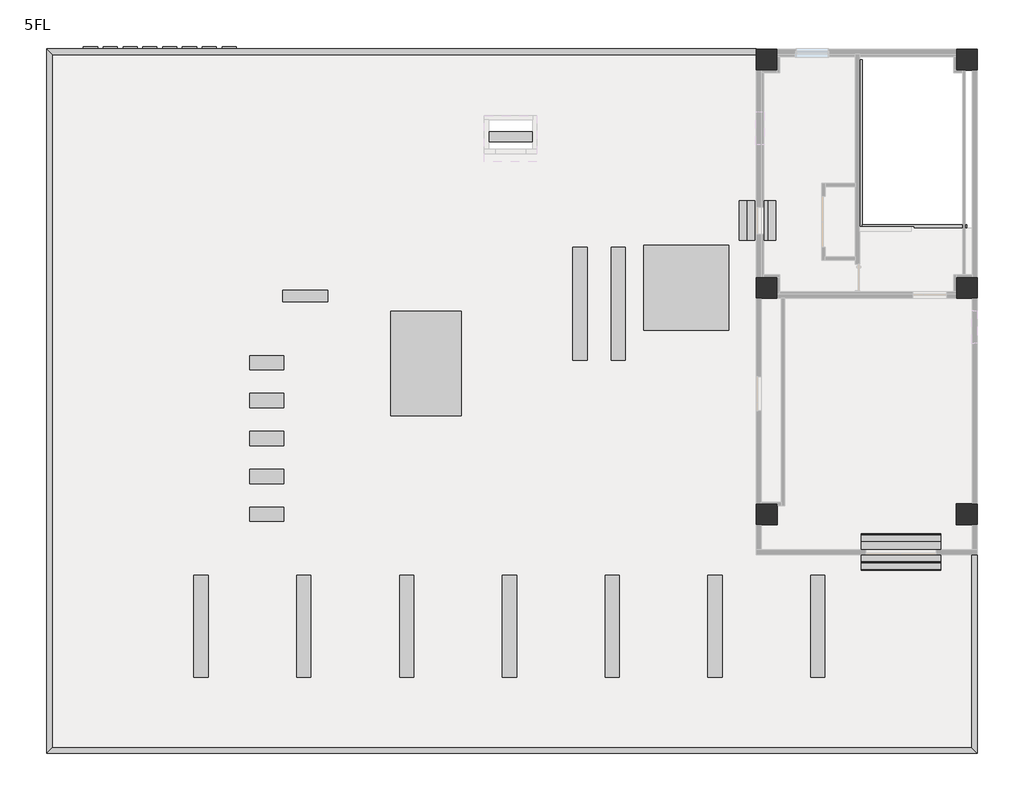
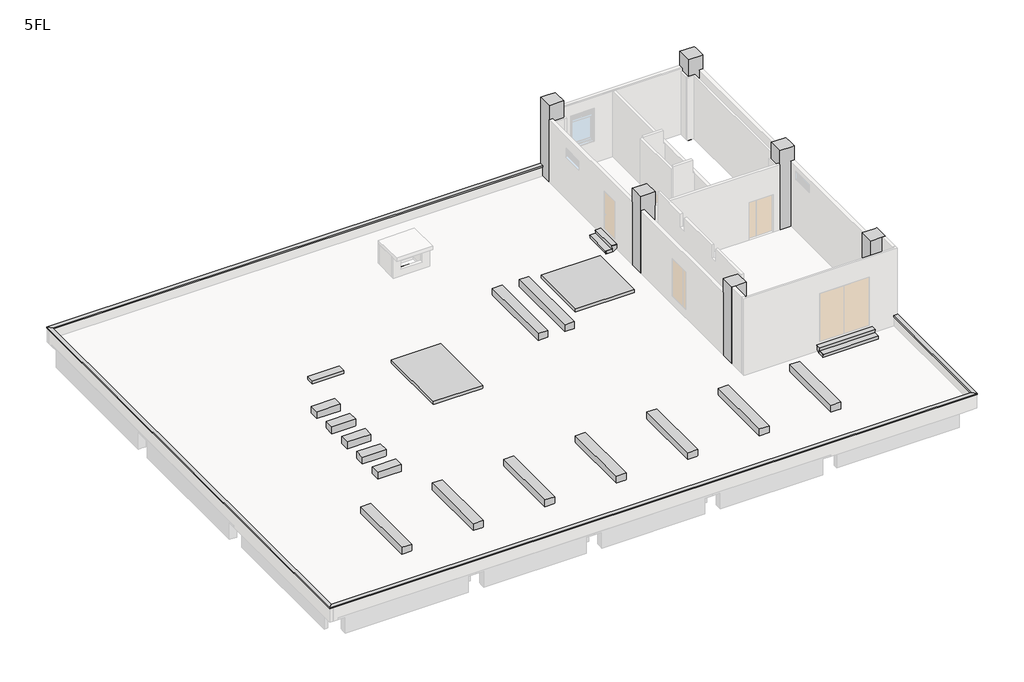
# One storey, part 3 of 3: 31 beams, 19 proxies, 6 columns, 4 stair flights.
"""IFC4 building model written with IfcOpenShell, lengths in millimetres."""

from ifc_helpers import new_model, si_unit, frame, origin, place, context, project, spatial, polyline, outline, extrude, faceted_brep, transform, mapped, element, save
from components import specialty_equipment_32afc5d8, generic_models_6a631b4b, generic_models_7c8da837, generic_models_0d24a473, generic_models_01440799, generic_models_cfce5d03, generic_models_70fadd8d

model = new_model("IFC4")

# Units and contexts
model_context = context("Model", 3, world=origin())
ifc_project = project(units=[si_unit("LENGTHUNIT", "METRE", prefix="MILLI")], contexts=[model_context])

# Site, building, storey
site = spatial("IfcSite", under=ifc_project)
building = spatial("IfcBuilding", under=site)
storey = spatial("IfcBuildingStorey", under=building, Name="5FL", Elevation=16400.0)

# Beams
placement = place(None, origin())
element("IfcBeam", 1, ObjectType="営_RC梁 : 2-RG2 350*850", at=placement, inside=storey, context=model_context, shape_type="SweptSolid", body=[
    extrude(outline(polyline([(13395.0, 7825.0), (13395.0, 8175.0), (18605.0, 8175.0), (18605.0, 7825.0), (13395.0, 7825.0)])), frame((0.0, 0.0, 15450.0), z_axis=(0.0, 0.0, 1.0), x_axis=(1.0, 0.0, 0.0)), (0.0, 0.0, 1.0), 790.0),
])
element("IfcBeam", 2, ObjectType="営_RC梁 : 2-RG2 350*850", at=placement, inside=storey, context=model_context, shape_type="Brep", body=[
    faceted_brep([(370.0, 15825.0, 15450.0), (6605.0, 15825.0, 15450.0), (6605.0, 15825.0, 16240.0), (370.0, 15825.0, 16240.0), (6605.0, 16175.0, 15450.0), (370.0, 16175.0, 15450.0), (370.0, 16175.0, 16240.0), (3825.0, 16175.0, 16240.0), (4175.0, 16175.0, 16240.0), (6605.0, 16175.0, 16240.0)], [[[0, 1, 2, 3]], [[4, 1, 0, 5]], [[4, 5, 6, 7, 8, 9]], [[1, 4, 9, 2]], [[5, 0, 3, 6]], [[3, 2, 9, 8, 7, 6]]]),
])
element("IfcBeam", 3, ObjectType="営_RC梁 : 2-RG2 350*850", at=placement, inside=storey, context=model_context, shape_type="Brep", body=[
    faceted_brep([(7395.0, 15825.0, 15450.0), (11140.0, 15825.0, 15450.0), (11260.0, 15825.0, 15450.0), (12605.0, 15825.0, 15450.0), (12605.0, 15825.0, 16240.0), (7395.0, 15825.0, 16240.0), (7395.0, 16175.0, 15450.0), (11140.0, 16175.0, 15450.0), (11260.0, 16175.0, 15450.0), (12605.0, 16175.0, 15450.0), (7395.0, 16175.0, 16240.0), (12605.0, 16175.0, 16240.0)], [[[0, 1, 2, 3, 4, 5]], [[0, 6, 7, 8, 9, 3, 2, 1]], [[9, 8, 7, 6, 10, 11]], [[6, 0, 5, 10]], [[3, 9, 11, 4]], [[5, 4, 11, 10]]]),
])
element("IfcBeam", 4, ObjectType="営_RC梁 : 2-RG2 350*850", at=placement, inside=storey, context=model_context, shape_type="Brep", body=[
    faceted_brep([(13395.0, 15825.0, 15450.0), (15040.0, 15825.0, 15450.0), (15160.0, 15825.0, 15450.0), (17440.0, 15825.0, 15450.0), (17560.0, 15825.0, 15450.0), (18605.0, 15825.0, 15450.0), (18605.0, 15825.0, 16240.0), (13395.0, 15825.0, 16240.0), (13395.0, 16175.0, 15450.0), (15040.0, 16175.0, 15450.0), (15160.0, 16175.0, 15450.0), (17440.0, 16175.0, 15450.0), (17560.0, 16175.0, 15450.0), (18605.0, 16175.0, 15450.0), (13395.0, 16175.0, 16240.0), (18605.0, 16175.0, 16240.0)], [[[0, 1, 2, 3, 4, 5, 6, 7]], [[0, 8, 9, 10, 11, 12, 13, 5, 4, 3, 2, 1]], [[13, 12, 11, 10, 9, 8, 14, 15]], [[8, 0, 7, 14]], [[5, 13, 15, 6]], [[7, 6, 15, 14]]]),
])
element("IfcBeam", 5, ObjectType="営_RC梁 : 2-RG1 350*850", at=placement, inside=storey, context=model_context, shape_type="Brep", body=[
    faceted_brep([(370.0, 24050.0, 15450.0), (3925.0, 24050.0, 15450.0), (4075.0, 24050.0, 15450.0), (6605.0, 24050.0, 15450.0), (6605.0, 24050.0, 16240.0), (4175.0, 24050.0, 16240.0), (3825.0, 24050.0, 16240.0), (370.0, 24050.0, 16240.0), (6605.0, 24420.0, 15450.0), (6605.0, 24250.0, 15450.0), (370.0, 24250.0, 15450.0), (370.0, 24420.0, 15450.0), (0.0, 24420.0, 16390.0), (7000.0, 24420.0, 16390.0), (7000.0, 24420.0, 16300.0), (6605.0, 24420.0, 16300.0), (370.0, 24420.0, 16300.0), (0.0, 24420.0, 16300.0), (0.0, 24290.0, 16390.0), (7000.0, 24290.0, 16390.0), (6605.0, 24290.0, 16300.0), (6605.0, 24290.0, 16240.0), (370.0, 24290.0, 16240.0), (370.0, 24290.0, 16300.0), (7000.0, 24290.0, 16300.0), (0.0, 24290.0, 16300.0)], [[[0, 1, 2, 3, 4, 5, 6, 7]], [[8, 9, 3, 2, 1, 0, 10, 11]], [[12, 13, 14, 15, 8, 11, 16, 17]], [[13, 12, 18, 19]], [[3, 9, 8, 15, 20, 21, 4]], [[11, 10, 0, 7, 22, 23, 16]], [[14, 13, 19, 24]], [[12, 17, 25, 18]], [[15, 14, 24, 20]], [[17, 16, 23, 25]], [[21, 22, 7, 6, 5, 4]], [[22, 21, 20, 24, 19, 18, 25, 23]]]),
])
element("IfcBeam", 6, ObjectType="営_RC梁 : 2-RG1 350*850", at=placement, inside=storey, context=model_context, shape_type="Brep", body=[
    faceted_brep([(7395.0, 24050.0, 15450.0), (11140.0, 24050.0, 15450.0), (11260.0, 24050.0, 15450.0), (12605.0, 24050.0, 15450.0), (12605.0, 24050.0, 16240.0), (7395.0, 24050.0, 16240.0), (7395.0, 24250.0, 15450.0), (7395.0, 24420.0, 15450.0), (12605.0, 24420.0, 15450.0), (12605.0, 24250.0, 15450.0), (7000.0, 24420.0, 16390.0), (13000.0, 24420.0, 16390.0), (13000.0, 24420.0, 16300.0), (12605.0, 24420.0, 16300.0), (7395.0, 24420.0, 16300.0), (7000.0, 24420.0, 16300.0), (7000.0, 24290.0, 16390.0), (13000.0, 24290.0, 16390.0), (7395.0, 24290.0, 16240.0), (7395.0, 24290.0, 16300.0), (12605.0, 24290.0, 16300.0), (12605.0, 24290.0, 16240.0), (7000.0, 24290.0, 16300.0), (13000.0, 24290.0, 16300.0)], [[[0, 1, 2, 3, 4, 5]], [[0, 6, 7, 8, 9, 3, 2, 1]], [[10, 11, 12, 13, 8, 7, 14, 15]], [[11, 10, 16, 17]], [[7, 6, 0, 5, 18, 19, 14]], [[3, 9, 8, 13, 20, 21, 4]], [[10, 15, 22, 16]], [[12, 11, 17, 23]], [[15, 14, 19, 22]], [[13, 12, 23, 20]], [[21, 18, 5, 4]], [[18, 21, 20, 23, 17, 16, 22, 19]]]),
])
element("IfcBeam", 7, ObjectType="営_RC梁 : 2-RG1 350*850", at=placement, inside=storey, context=model_context, shape_type="Brep", body=[
    faceted_brep([(13395.0, 24050.0, 15450.0), (15040.0, 24050.0, 15450.0), (15160.0, 24050.0, 15450.0), (18605.0, 24050.0, 15450.0), (18605.0, 24050.0, 16240.0), (13395.0, 24050.0, 16240.0), (13395.0, 24250.0, 15450.0), (13395.0, 24420.0, 15450.0), (18605.0, 24420.0, 15450.0), (18605.0, 24250.0, 15450.0), (13000.0, 24420.0, 16390.0), (19000.0, 24420.0, 16390.0), (19000.0, 24420.0, 16300.0), (18605.0, 24420.0, 16300.0), (13395.0, 24420.0, 16300.0), (13000.0, 24420.0, 16300.0), (13000.0, 24290.0, 16390.0), (19000.0, 24290.0, 16390.0), (13395.0, 24290.0, 16240.0), (13395.0, 24290.0, 16300.0), (18605.0, 24290.0, 16300.0), (18605.0, 24290.0, 16240.0), (13000.0, 24290.0, 16300.0), (19000.0, 24290.0, 16300.0)], [[[0, 1, 2, 3, 4, 5]], [[0, 6, 7, 8, 9, 3, 2, 1]], [[10, 11, 12, 13, 8, 7, 14, 15]], [[11, 10, 16, 17]], [[7, 6, 0, 5, 18, 19, 14]], [[3, 9, 8, 13, 20, 21, 4]], [[10, 15, 22, 16]], [[12, 11, 17, 23]], [[15, 14, 19, 22]], [[13, 12, 23, 20]], [[21, 18, 5, 4]], [[18, 21, 20, 23, 17, 16, 22, 19]]]),
])
element("IfcBeam", 8, ObjectType="営_RC梁 : RG12 350*900", at=placement, inside=storey, context=model_context, shape_type="Brep", body=[
    faceted_brep([(7175.0, 16395.0, 15400.0), (7175.0, 23630.0, 15400.0), (7175.0, 23630.0, 16240.0), (7175.0, 21515.0, 16240.0), (7175.0, 21165.0, 16240.0), (7175.0, 18845.0, 16240.0), (7175.0, 18495.0, 16240.0), (7175.0, 16395.0, 16240.0), (7060.0, 16395.0, 15400.0), (6940.0, 16395.0, 15400.0), (6825.0, 16395.0, 15400.0), (6825.0, 20925.0, 15400.0), (6825.0, 21075.0, 15400.0), (6825.0, 23630.0, 15400.0), (6925.0, 23630.0, 15400.0), (7075.0, 23630.0, 15400.0), (6825.0, 16395.0, 16240.0), (6825.0, 20825.0, 16240.0), (6825.0, 21075.0, 16240.0), (6825.0, 23630.0, 16240.0)], [[[0, 1, 2, 3, 4, 5, 6, 7]], [[0, 8, 9, 10, 11, 12, 13, 14, 15, 1]], [[13, 12, 11, 10, 16, 17, 18, 19]], [[10, 9, 8, 0, 7, 16]], [[1, 15, 14, 13, 19, 2]], [[7, 6, 5, 4, 3, 2, 19, 18, 17, 16]]]),
])
element("IfcBeam", 9, ObjectType="営_RC梁 : RG12 350*900", at=placement, inside=storey, context=model_context, shape_type="Brep", body=[
    faceted_brep([(13175.0, 16395.0, 15400.0), (13175.0, 17400.0, 15400.0), (13175.0, 17520.0, 15400.0), (13175.0, 18430.0, 15400.0), (13175.0, 18550.0, 15400.0), (13175.0, 20450.0, 15400.0), (13175.0, 20570.0, 15400.0), (13175.0, 23630.0, 15400.0), (13175.0, 23630.0, 16240.0), (13175.0, 21515.0, 16240.0), (13175.0, 21165.0, 16240.0), (13175.0, 18845.0, 16240.0), (13175.0, 18495.0, 16240.0), (13175.0, 16395.0, 16240.0), (12825.0, 16395.0, 15400.0), (12825.0, 17400.0, 15400.0), (12825.0, 17520.0, 15400.0), (12825.0, 18430.0, 15400.0), (12825.0, 18550.0, 15400.0), (12825.0, 23630.0, 15400.0), (12825.0, 16395.0, 16240.0), (12825.0, 18495.0, 16240.0), (12825.0, 18845.0, 16240.0), (12825.0, 21165.0, 16240.0), (12825.0, 21515.0, 16240.0), (12825.0, 23630.0, 16240.0)], [[[0, 1, 2, 3, 4, 5, 6, 7, 8, 9, 10, 11, 12, 13]], [[0, 14, 15, 16, 17, 18, 19, 7, 6, 5, 4, 3, 2, 1]], [[19, 18, 17, 16, 15, 14, 20, 21, 22, 23, 24, 25]], [[14, 0, 13, 20]], [[7, 19, 25, 8]], [[13, 12, 11, 10, 9, 8, 25, 24, 23, 22, 21, 20]]]),
])
element("IfcBeam", 10, ObjectType="営_RC梁 : RG12 350*900", at=placement, inside=storey, context=model_context, shape_type="Brep", body=[
    faceted_brep([(19175.0, 8395.0, 15400.0), (19175.0, 13440.0, 15400.0), (19175.0, 13560.0, 15400.0), (19175.0, 15605.0, 15400.0), (19175.0, 15605.0, 16240.0), (19175.0, 13675.0, 16240.0), (19175.0, 13325.0, 16240.0), (19175.0, 10925.0, 16240.0), (19175.0, 10575.0, 16240.0), (19175.0, 8395.0, 16240.0), (18825.0, 8395.0, 15400.0), (18825.0, 13440.0, 15400.0), (18825.0, 13560.0, 15400.0), (18825.0, 15605.0, 15400.0), (18825.0, 8395.0, 16240.0), (18825.0, 10575.0, 16240.0), (18825.0, 10925.0, 16240.0), (18825.0, 13325.0, 16240.0), (18825.0, 13675.0, 16240.0), (18825.0, 15605.0, 16240.0)], [[[0, 1, 2, 3, 4, 5, 6, 7, 8, 9]], [[0, 10, 11, 12, 13, 3, 2, 1]], [[13, 12, 11, 10, 14, 15, 16, 17, 18, 19]], [[10, 0, 9, 14]], [[3, 13, 19, 4]], [[9, 8, 7, 6, 5, 4, 19, 18, 17, 16, 15, 14]]]),
])
element("IfcBeam", 11, ObjectType="営_RC梁 : RG12 350*900", at=placement, inside=storey, context=model_context, shape_type="Brep", body=[
    faceted_brep([(19175.0, 16395.0, 15400.0), (19175.0, 19940.0, 15400.0), (19175.0, 20060.0, 15400.0), (19175.0, 23630.0, 15400.0), (19175.0, 23630.0, 16240.0), (19175.0, 21515.0, 16240.0), (19175.0, 21165.0, 16240.0), (19175.0, 18845.0, 16240.0), (19175.0, 18495.0, 16240.0), (19175.0, 16395.0, 16240.0), (19060.0, 16395.0, 15400.0), (18940.0, 16395.0, 15400.0), (18825.0, 16395.0, 15400.0), (18825.0, 19430.0, 15400.0), (18825.0, 19550.0, 15400.0), (18825.0, 23630.0, 15400.0), (18940.0, 23630.0, 15400.0), (19060.0, 23630.0, 15400.0), (18825.0, 16395.0, 16240.0), (18825.0, 18495.0, 16240.0), (18825.0, 18845.0, 16240.0), (18825.0, 21165.0, 16240.0), (18825.0, 21515.0, 16240.0), (18825.0, 23630.0, 16240.0)], [[[0, 1, 2, 3, 4, 5, 6, 7, 8, 9]], [[0, 10, 11, 12, 13, 14, 15, 16, 17, 3, 2, 1]], [[15, 14, 13, 12, 18, 19, 20, 21, 22, 23]], [[12, 11, 10, 0, 9, 18]], [[3, 17, 16, 15, 23, 4]], [[9, 8, 7, 6, 5, 4, 23, 22, 21, 20, 19, 18]]]),
])
element("IfcBeam", 12, ObjectType="営_RC梁 : B1 350*750", at=placement, inside=storey, context=model_context, shape_type="SweptSolid", body=[
    extrude(outline(polyline([(25175.0, 2485.0), (25175.0, 2835.0), (32050.0, 2835.0), (32050.0, 2485.0), (25175.0, 2485.0)])), frame((0.0, 0.0, 15550.0), z_axis=(0.0, 0.0, 1.0), x_axis=(1.0, 0.0, 0.0)), (0.0, 0.0, 1.0), 690.0),
])
element("IfcBeam", 13, ObjectType="営_RC梁 : B1 350*750", at=placement, inside=storey, context=model_context, shape_type="SweptSolid", body=[
    extrude(outline(polyline([(25175.0, 5155.0), (25175.0, 5505.0), (32050.0, 5505.0), (32050.0, 5155.0), (25175.0, 5155.0)])), frame((0.0, 0.0, 15550.0), z_axis=(0.0, 0.0, 1.0), x_axis=(1.0, 0.0, 0.0)), (0.0, 0.0, 1.0), 690.0),
])
element("IfcBeam", 14, ObjectType="営_RC梁 : B1 350*750", at=placement, inside=storey, context=model_context, shape_type="SweptSolid", body=[
    extrude(outline(polyline([(25175.0, 10575.0), (25175.0, 10925.0), (32050.0, 10925.0), (32050.0, 10575.0), (25175.0, 10575.0)])), frame((0.0, 0.0, 15550.0), z_axis=(0.0, 0.0, 1.0), x_axis=(1.0, 0.0, 0.0)), (0.0, 0.0, 1.0), 690.0),
])
element("IfcBeam", 15, ObjectType="営_RC梁 : B1 350*750", at=placement, inside=storey, context=model_context, shape_type="Brep", body=[
    faceted_brep([(25175.0, 13325.0, 15550.0), (32050.0, 13325.0, 15550.0), (32050.0, 13325.0, 16240.0), (25175.0, 13325.0, 16240.0), (25175.0, 13405.0, 15550.0), (25175.0, 13555.0, 15550.0), (25175.0, 13675.0, 15550.0), (32050.0, 13675.0, 15550.0), (32050.0, 13555.0, 15550.0), (32050.0, 13405.0, 15550.0), (25175.0, 13675.0, 16240.0), (32050.0, 13675.0, 16240.0)], [[[0, 1, 2, 3]], [[0, 4, 5, 6, 7, 8, 9, 1]], [[7, 6, 10, 11]], [[6, 5, 4, 0, 3, 10]], [[1, 9, 8, 7, 11, 2]], [[3, 2, 11, 10]]]),
])
element("IfcBeam", 16, ObjectType="営_RC梁 : B4 350*750", at=placement, inside=storey, context=model_context, shape_type="Brep", body=[
    faceted_brep([(28374.0, 16175.0, 15550.0), (28374.0, 24050.0, 15550.0), (28374.0, 24050.0, 16390.0), (28374.0, 18225.0, 16390.0), (28374.0, 18150.0, 16390.0), (28374.0, 18150.0, 16240.0), (28374.0, 17975.0, 16240.0), (28374.0, 16175.0, 16240.0), (28175.0, 16175.0, 15550.0), (28025.0, 16175.0, 15550.0), (28024.0, 16175.0, 15550.0), (28024.0, 19575.0, 15550.0), (28024.0, 19695.0, 15550.0), (28024.0, 24050.0, 15550.0), (28024.0, 16175.0, 16240.0), (28024.0, 24050.0, 16240.0), (28275.0, 24050.0, 16390.0), (28275.0, 18150.0, 16390.0), (28275.0, 24050.0, 16240.0), (28275.0, 18150.0, 16240.0)], [[[0, 1, 2, 3, 4, 5, 6, 7]], [[0, 8, 9, 10, 11, 12, 13, 1]], [[13, 12, 11, 10, 14, 15]], [[4, 3, 2, 16, 17]], [[10, 9, 8, 0, 7, 14]], [[2, 1, 13, 15, 18, 16]], [[5, 19, 18, 15, 14, 7, 6]], [[19, 17, 16, 18]], [[17, 19, 5, 4]]]),
])
element("IfcBeam", 17, ObjectType="営_RC梁 : B3 250*600", at=placement, inside=storey, context=model_context, shape_type="Brep", body=[
    faceted_brep([(28374.0, 17975.0, 15700.0), (32050.0, 17975.0, 15700.0), (32050.0, 17975.0, 16240.0), (28374.0, 17975.0, 16240.0), (28374.0, 18225.0, 15700.0), (30105.0, 18225.0, 15700.0), (30255.0, 18225.0, 15700.0), (32050.0, 18225.0, 15700.0), (28374.0, 18225.0, 16390.0), (30105.0, 18225.0, 16390.0), (30255.0, 18225.0, 16390.0), (32050.0, 18225.0, 16390.0), (28374.0, 18150.0, 16390.0), (30180.0, 18150.0, 16390.0), (30180.0, 18100.0, 16390.0), (32050.0, 18100.0, 16390.0), (28374.0, 18150.0, 16240.0), (32050.0, 18100.0, 16240.0), (30180.0, 18100.0, 16240.0), (30180.0, 18150.0, 16240.0)], [[[0, 1, 2, 3]], [[0, 4, 5, 6, 7, 1]], [[4, 8, 9, 10, 11, 7, 6, 5]], [[11, 10, 9, 8, 12, 13, 14, 15]], [[8, 4, 0, 3, 16, 12]], [[1, 7, 11, 15, 17, 2]], [[18, 19, 16, 3, 2, 17]], [[19, 13, 12, 16]], [[19, 18, 14, 13]], [[14, 18, 17, 15]]]),
])
element("IfcBeam", 18, ObjectType="営_RC梁 : B1 350*750", at=placement, inside=storey, context=model_context, shape_type="SweptSolid", body=[
    extrude(outline(polyline([(19175.0, 5155.0), (19175.0, 5505.0), (24825.0, 5505.0), (24825.0, 5155.0), (19175.0, 5155.0)])), frame((0.0, 0.0, 15550.0), z_axis=(0.0, 0.0, 1.0), x_axis=(1.0, 0.0, 0.0)), (0.0, 0.0, 1.0), 690.0),
])
element("IfcBeam", 19, ObjectType="営_RC梁 : B1 350*750", at=placement, inside=storey, context=model_context, shape_type="SweptSolid", body=[
    extrude(outline(polyline([(19175.0, 10575.0), (19175.0, 10925.0), (24825.0, 10925.0), (24825.0, 10575.0), (19175.0, 10575.0)])), frame((0.0, 0.0, 15550.0), z_axis=(0.0, 0.0, 1.0), x_axis=(1.0, 0.0, 0.0)), (0.0, 0.0, 1.0), 690.0),
])
element("IfcBeam", 20, ObjectType="営_RC梁 : B1 350*750", at=placement, inside=storey, context=model_context, shape_type="SweptSolid", body=[
    extrude(outline(polyline([(19175.0, 13325.0), (19175.0, 13675.0), (24825.0, 13675.0), (24825.0, 13325.0), (19175.0, 13325.0)])), frame((0.0, 0.0, 15550.0), z_axis=(0.0, 0.0, 1.0), x_axis=(1.0, 0.0, 0.0)), (0.0, 0.0, 1.0), 690.0),
])
element("IfcBeam", 21, ObjectType="営_RC梁 : B1 350*750", at=placement, inside=storey, context=model_context, shape_type="SweptSolid", body=[
    extrude(outline(polyline([(18825.0, 10925.0), (18825.0, 10575.0), (13175.0, 10575.0), (13175.0, 10925.0), (18825.0, 10925.0)])), frame((0.0, 0.0, 15550.0), z_axis=(0.0, 0.0, 1.0), x_axis=(1.0, 0.0, 0.0)), (0.0, 0.0, 1.0), 690.0),
])
element("IfcBeam", 22, ObjectType="営_RC梁 : B1 350*750", at=placement, inside=storey, context=model_context, shape_type="Brep", body=[
    faceted_brep([(13175.0, 13325.0, 15550.0), (15400.0, 13325.0, 15550.0), (15520.0, 13325.0, 15550.0), (16480.0, 13325.0, 15550.0), (16600.0, 13325.0, 15550.0), (18825.0, 13325.0, 15550.0), (18825.0, 13325.0, 16240.0), (13175.0, 13325.0, 16240.0), (18825.0, 13675.0, 15550.0), (13175.0, 13675.0, 15550.0), (13175.0, 13675.0, 16240.0), (18825.0, 13675.0, 16240.0)], [[[0, 1, 2, 3, 4, 5, 6, 7]], [[8, 5, 4, 3, 2, 1, 0, 9]], [[8, 9, 10, 11]], [[5, 8, 11, 6]], [[9, 0, 7, 10]], [[7, 6, 11, 10]]]),
])
element("IfcBeam", 23, ObjectType="営_RC梁 : B1 350*750", at=placement, inside=storey, context=model_context, shape_type="Brep", body=[
    faceted_brep([(19175.0, 18495.0, 15550.0), (21940.0, 18495.0, 15550.0), (22060.0, 18495.0, 15550.0), (24825.0, 18495.0, 15550.0), (24825.0, 18495.0, 16240.0), (19175.0, 18495.0, 16240.0), (19175.0, 18845.0, 15550.0), (21940.0, 18845.0, 15550.0), (22060.0, 18845.0, 15550.0), (24825.0, 18845.0, 15550.0), (19175.0, 18845.0, 16240.0), (24825.0, 18845.0, 16240.0)], [[[0, 1, 2, 3, 4, 5]], [[0, 6, 7, 8, 9, 3, 2, 1]], [[9, 8, 7, 6, 10, 11]], [[6, 0, 5, 10]], [[3, 9, 11, 4]], [[5, 4, 11, 10]]]),
])
element("IfcBeam", 24, ObjectType="営_RC梁 : B1 350*750", at=placement, inside=storey, context=model_context, shape_type="Brep", body=[
    faceted_brep([(19175.0, 21165.0, 15550.0), (21940.0, 21165.0, 15550.0), (22060.0, 21165.0, 15550.0), (24825.0, 21165.0, 15550.0), (24825.0, 21165.0, 16240.0), (19175.0, 21165.0, 16240.0), (19175.0, 21515.0, 15550.0), (21940.0, 21515.0, 15550.0), (22060.0, 21515.0, 15550.0), (24825.0, 21515.0, 15550.0), (19175.0, 21515.0, 16240.0), (24825.0, 21515.0, 16240.0)], [[[0, 1, 2, 3, 4, 5]], [[0, 6, 7, 8, 9, 3, 2, 1]], [[9, 8, 7, 6, 10, 11]], [[6, 0, 5, 10]], [[3, 9, 11, 4]], [[5, 4, 11, 10]]]),
])
element("IfcBeam", 25, ObjectType="営_RC梁 : B1 350*750", at=placement, inside=storey, context=model_context, shape_type="Brep", body=[
    faceted_brep([(13175.0, 18495.0, 15550.0), (17560.0, 18495.0, 15550.0), (18825.0, 18495.0, 15550.0), (18825.0, 18495.0, 16240.0), (13175.0, 18495.0, 16240.0), (13175.0, 18495.0, 16150.0), (13175.0, 18550.0, 15550.0), (13175.0, 18845.0, 15550.0), (15040.0, 18845.0, 15550.0), (15160.0, 18845.0, 15550.0), (17440.0, 18845.0, 15550.0), (17560.0, 18845.0, 15550.0), (18825.0, 18845.0, 15550.0), (13175.0, 18845.0, 16240.0), (18825.0, 18845.0, 16240.0)], [[[0, 1, 2, 3, 4, 5]], [[0, 6, 7, 8, 9, 10, 11, 12, 2, 1]], [[12, 11, 10, 9, 8, 7, 13, 14]], [[7, 6, 0, 5, 4, 13]], [[2, 12, 14, 3]], [[4, 3, 14, 13]]]),
])
element("IfcBeam", 26, ObjectType="営_RC梁 : B1 350*750", at=placement, inside=storey, context=model_context, shape_type="Brep", body=[
    faceted_brep([(13175.0, 21165.0, 15550.0), (15040.0, 21165.0, 15550.0), (15160.0, 21165.0, 15550.0), (16540.0, 21165.0, 15550.0), (16660.0, 21165.0, 15550.0), (18825.0, 21165.0, 15550.0), (18825.0, 21165.0, 16240.0), (16725.0, 21165.0, 16240.0), (16725.0, 21165.0, 16390.0), (15175.0, 21165.0, 16390.0), (15175.0, 21165.0, 16240.0), (13175.0, 21165.0, 16240.0), (13175.0, 21515.0, 15550.0), (15040.0, 21515.0, 15550.0), (15160.0, 21515.0, 15550.0), (16540.0, 21515.0, 15550.0), (16660.0, 21515.0, 15550.0), (18825.0, 21515.0, 15550.0), (13175.0, 21515.0, 16240.0), (15175.0, 21515.0, 16240.0), (15175.0, 21515.0, 16390.0), (16725.0, 21515.0, 16390.0), (16725.0, 21515.0, 16240.0), (18825.0, 21515.0, 16240.0)], [[[0, 1, 2, 3, 4, 5, 6, 7, 8, 9, 10, 11]], [[0, 12, 13, 14, 15, 16, 17, 5, 4, 3, 2, 1]], [[17, 16, 15, 14, 13, 12, 18, 19, 20, 21, 22, 23]], [[9, 8, 21, 20]], [[12, 0, 11, 18]], [[5, 17, 23, 6]], [[10, 19, 18, 11]], [[19, 10, 9, 20]], [[7, 22, 21, 8]], [[22, 7, 6, 23]]]),
])
element("IfcBeam", 27, ObjectType="営_RC梁 : B1 350*750", at=placement, inside=storey, context=model_context, shape_type="Brep", body=[
    faceted_brep([(7175.0, 18495.0, 15550.0), (11140.0, 18495.0, 15550.0), (11260.0, 18495.0, 15550.0), (12605.0, 18495.0, 15550.0), (12725.0, 18495.0, 15550.0), (12825.0, 18495.0, 15550.0), (12825.0, 18495.0, 16150.0), (12825.0, 18495.0, 16240.0), (7175.0, 18495.0, 16240.0), (7175.0, 18845.0, 15550.0), (11140.0, 18845.0, 15550.0), (11260.0, 18845.0, 15550.0), (12605.0, 18845.0, 15550.0), (12725.0, 18845.0, 15550.0), (12825.0, 18845.0, 15550.0), (12825.0, 18550.0, 15550.0), (7175.0, 18845.0, 16240.0), (12825.0, 18845.0, 16240.0)], [[[0, 1, 2, 3, 4, 5, 6, 7, 8]], [[0, 9, 10, 11, 12, 13, 14, 15, 5, 4, 3, 2, 1]], [[14, 13, 12, 11, 10, 9, 16, 17]], [[9, 0, 8, 16]], [[5, 15, 14, 17, 7, 6]], [[8, 7, 17, 16]]]),
])
element("IfcBeam", 28, ObjectType="営_RC梁 : B1 350*750", at=placement, inside=storey, context=model_context, shape_type="Brep", body=[
    faceted_brep([(7175.0, 21165.0, 15550.0), (11140.0, 21165.0, 15550.0), (11260.0, 21165.0, 15550.0), (12825.0, 21165.0, 15550.0), (12825.0, 21165.0, 16240.0), (7175.0, 21165.0, 16240.0), (7175.0, 21515.0, 15550.0), (11140.0, 21515.0, 15550.0), (11260.0, 21515.0, 15550.0), (12825.0, 21515.0, 15550.0), (7175.0, 21515.0, 16240.0), (12825.0, 21515.0, 16240.0)], [[[0, 1, 2, 3, 4, 5]], [[0, 6, 7, 8, 9, 3, 2, 1]], [[9, 8, 7, 6, 10, 11]], [[6, 0, 5, 10]], [[3, 9, 11, 4]], [[5, 4, 11, 10]]]),
])
element("IfcBeam", 29, ObjectType="営_RC梁 : B3 250*600", at=placement, inside=storey, context=model_context, shape_type="Brep", body=[
    faceted_brep([(4175.0, 20825.0, 15700.0), (6825.0, 20825.0, 15700.0), (6825.0, 20825.0, 16240.0), (4175.0, 20825.0, 16240.0), (6825.0, 21075.0, 15700.0), (6825.0, 20925.0, 15700.0), (4175.0, 20925.0, 15700.0), (4175.0, 21075.0, 15700.0), (4175.0, 21075.0, 16240.0), (6825.0, 21075.0, 16240.0)], [[[0, 1, 2, 3]], [[4, 5, 1, 0, 6, 7]], [[4, 7, 8, 9]], [[1, 5, 4, 9, 2]], [[7, 6, 0, 3, 8]], [[3, 2, 9, 8]]]),
])
element("IfcBeam", 30, ObjectType="営_RC梁 : B4 350*750", at=placement, inside=storey, context=model_context, shape_type="Brep", body=[
    faceted_brep([(4175.0, 16175.0, 15550.0), (4175.0, 20925.0, 15550.0), (4175.0, 21075.0, 15550.0), (4175.0, 24050.0, 15550.0), (4175.0, 24050.0, 16240.0), (4175.0, 21075.0, 16240.0), (4175.0, 20825.0, 16240.0), (4175.0, 16175.0, 16240.0), (3825.0, 16175.0, 15550.0), (3825.0, 24050.0, 15550.0), (3825.0, 16175.0, 16240.0), (3825.0, 17975.0, 16240.0), (3825.0, 18225.0, 16240.0), (3825.0, 24050.0, 16240.0)], [[[0, 1, 2, 3, 4, 5, 6, 7]], [[0, 8, 9, 3, 2, 1]], [[9, 8, 10, 11, 12, 13]], [[8, 0, 7, 10]], [[3, 9, 13, 4]], [[7, 6, 5, 4, 13, 12, 11, 10]]]),
])
element("IfcBeam", 31, ObjectType="営_RC梁 : B3 250*600", at=placement, inside=storey, context=model_context, shape_type="SweptSolid", body=[
    extrude(outline(polyline([(3825.0, 18225.0), (3825.0, 17975.0), (-50.0, 17975.0), (-50.0, 18225.0), (3825.0, 18225.0)])), frame((0.0, 0.0, 15700.0), z_axis=(0.0, 0.0, 1.0), x_axis=(1.0, 0.0, 0.0)), (0.0, 0.0, 1.0), 540.0),
])

# Proxies
element("IfcBuildingElementProxy", 32, Name="パラペット笠木", ObjectType="パラペット笠木", at=placement, inside=storey, context=model_context, shape_type="Brep", body=[
    faceted_brep([(32435.0, 6580.0, 17030.0), (32420.0, 6580.0, 17030.0), (32420.0, 6580.0, 17050.0), (32250.0, 6580.0, 17050.0), (32250.0, 6580.0, 17025.0), (32235.0, 6580.0, 17025.0), (32235.0, 6580.0, 17090.1428571), (32435.0, 6580.0, 17100.0), (32435.0, -435.0, 17030.0), (32435.0, -435.0, 17100.0), (32235.0, -235.0, 17090.1428571), (32235.0, -235.0, 17025.0), (32250.0, -250.0, 17025.0), (32250.0, -250.0, 17050.0), (32420.0, -420.0, 17050.0), (32420.0, -420.0, 17030.0)], [[[0, 1, 2, 3, 4, 5, 6, 7]], [[8, 9, 10, 11, 12, 13, 14, 15]], [[1, 0, 8, 15]], [[2, 1, 15, 14]], [[3, 2, 14, 13]], [[4, 3, 13, 12]], [[5, 4, 12, 11]], [[6, 5, 11, 10]], [[7, 6, 10, 9]], [[0, 7, 9, 8]]]),
    faceted_brep([(32435.0, -435.0, 17030.0), (32420.0, -420.0, 17030.0), (32420.0, -420.0, 17050.0), (32250.0, -250.0, 17050.0), (32250.0, -250.0, 17025.0), (32235.0, -235.0, 17025.0), (32235.0, -235.0, 17090.1428571), (32435.0, -435.0, 17100.0), (-435.0, -435.0, 17030.0), (-435.0, -435.0, 17100.0), (-235.0, -235.0, 17090.1428571), (-235.0, -235.0, 17025.0), (-250.0, -250.0, 17025.0), (-250.0, -250.0, 17050.0), (-420.0, -420.0, 17050.0), (-420.0, -420.0, 17030.0)], [[[0, 1, 2, 3, 4, 5, 6, 7]], [[8, 9, 10, 11, 12, 13, 14, 15]], [[1, 0, 8, 15]], [[2, 1, 15, 14]], [[3, 2, 14, 13]], [[4, 3, 13, 12]], [[5, 4, 12, 11]], [[6, 5, 11, 10]], [[7, 6, 10, 9]], [[0, 7, 9, 8]]]),
    faceted_brep([(-435.0, -435.0, 17030.0), (-420.0, -420.0, 17030.0), (-420.0, -420.0, 17050.0), (-250.0, -250.0, 17050.0), (-250.0, -250.0, 17025.0), (-235.0, -235.0, 17025.0), (-235.0, -235.0, 17090.1428571), (-435.0, -435.0, 17100.0), (-435.0, 24435.0, 17030.0), (-435.0, 24435.0, 17100.0), (-235.0, 24235.0, 17090.1428571), (-235.0, 24235.0, 17025.0), (-250.0, 24250.0, 17025.0), (-250.0, 24250.0, 17050.0), (-420.0, 24420.0, 17050.0), (-420.0, 24420.0, 17030.0)], [[[0, 1, 2, 3, 4, 5, 6, 7]], [[8, 9, 10, 11, 12, 13, 14, 15]], [[1, 0, 8, 15]], [[2, 1, 15, 14]], [[3, 2, 14, 13]], [[4, 3, 13, 12]], [[5, 4, 12, 11]], [[6, 5, 11, 10]], [[7, 6, 10, 9]], [[0, 7, 9, 8]]]),
    faceted_brep([(24630.0, 24435.0, 17030.0), (24630.0, 24435.0, 17100.0), (24630.0, 24235.0, 17090.1428571), (24630.0, 24235.0, 17025.0), (24630.0, 24250.0, 17025.0), (24630.0, 24250.0, 17050.0), (24630.0, 24420.0, 17050.0), (24630.0, 24420.0, 17030.0), (-435.0, 24435.0, 17030.0), (-420.0, 24420.0, 17030.0), (-420.0, 24420.0, 17050.0), (-250.0, 24250.0, 17050.0), (-250.0, 24250.0, 17025.0), (-235.0, 24235.0, 17025.0), (-235.0, 24235.0, 17090.1428571), (-435.0, 24435.0, 17100.0)], [[[0, 1, 2, 3, 4, 5, 6, 7]], [[8, 9, 10, 11, 12, 13, 14, 15]], [[1, 0, 8, 15]], [[2, 1, 15, 14]], [[3, 2, 14, 13]], [[4, 3, 13, 12]], [[5, 4, 12, 11]], [[6, 5, 11, 10]], [[7, 6, 10, 9]], [[0, 7, 9, 8]]]),
])
specialty_equipment_shape = specialty_equipment_32afc5d8(model_context)
element("IfcBuildingElementProxy", 33, Name="営_庁舎名サイン : 庁舎名サイン", ObjectType="営_庁舎名サイン : 庁舎名サイン", at=placement, inside=storey, context=model_context, shape_type="MappedRepresentation", body=[
    mapped(specialty_equipment_shape, transform((6265.0, 24420.0, 16500.0), x_axis=(-1.0, 0.0, 0.0), y_axis=(0.0, -1.0, 0.0), z_axis=(0.0, 0.0, 1.0))),
])
generic_models_shape = generic_models_6a631b4b(model_context)
element("IfcBuildingElementProxy", 34, Name="営_屋上基礎_簡易 : 1200*500*H500", ObjectType="営_屋上基礎_簡易 : 1200*500*H500", at=placement, inside=storey, context=model_context, shape_type="MappedRepresentation", body=[
    mapped(generic_models_shape, transform((7335.0, 8000.0, 16390.0), x_axis=(1.0, 0.0, 0.0), y_axis=(0.0, 1.0, 0.0), z_axis=(0.0, 0.0, 1.0))),
])
element("IfcBuildingElementProxy", 35, Name="営_屋上基礎_簡易 : 1200*500*H500", ObjectType="営_屋上基礎_簡易 : 1200*500*H500", at=placement, inside=storey, context=model_context, shape_type="MappedRepresentation", body=[
    mapped(generic_models_shape, transform((7335.0, 9340.0, 16390.0), x_axis=(1.0, 0.0, 0.0), y_axis=(0.0, 1.0, 0.0), z_axis=(0.0, 0.0, 1.0))),
])
element("IfcBuildingElementProxy", 36, Name="営_屋上基礎_簡易 : 1200*500*H500", ObjectType="営_屋上基礎_簡易 : 1200*500*H500", at=placement, inside=storey, context=model_context, shape_type="MappedRepresentation", body=[
    mapped(generic_models_shape, transform((7335.0, 10680.0, 16390.0), x_axis=(1.0, 0.0, 0.0), y_axis=(0.0, 1.0, 0.0), z_axis=(0.0, 0.0, 1.0))),
])
element("IfcBuildingElementProxy", 37, Name="営_屋上基礎_簡易 : 1200*500*H500", ObjectType="営_屋上基礎_簡易 : 1200*500*H500", at=placement, inside=storey, context=model_context, shape_type="MappedRepresentation", body=[
    mapped(generic_models_shape, transform((7335.0, 12020.0, 16390.0), x_axis=(1.0, 0.0, 0.0), y_axis=(0.0, 1.0, 0.0), z_axis=(0.0, 0.0, 1.0))),
])
element("IfcBuildingElementProxy", 38, Name="営_屋上基礎_簡易 : 1200*500*H500", ObjectType="営_屋上基礎_簡易 : 1200*500*H500", at=placement, inside=storey, context=model_context, shape_type="MappedRepresentation", body=[
    mapped(generic_models_shape, transform((7335.0, 13360.0, 16390.0), x_axis=(1.0, 0.0, 0.0), y_axis=(0.0, 1.0, 0.0), z_axis=(0.0, 0.0, 1.0))),
])
generic_models_2_shape = generic_models_7c8da837(model_context)
element("IfcBuildingElementProxy", 39, Name="営_屋上基礎_簡易 : 3700*250*H300", ObjectType="営_屋上基礎_簡易 : 3700*250*H300", at=placement, inside=storey, context=model_context, shape_type="MappedRepresentation", body=[
    mapped(generic_models_2_shape, transform((12962.9716093, 13326.6237803, 16390.0), x_axis=(0.0, 1.0, 0.0), y_axis=(-1.0, 0.0, 0.0), z_axis=(0.0, 0.0, 1.0))),
])
generic_models_3_shape = generic_models_0d24a473(model_context)
element("IfcBuildingElementProxy", 40, Name="営_屋上基礎_簡易 : 3600*500*H500", ObjectType="営_屋上基礎_簡易 : 3600*500*H500", at=placement, inside=storey, context=model_context, shape_type="MappedRepresentation", body=[
    mapped(generic_models_3_shape, transform((5020.0, 4045.2819279, 16390.0), x_axis=(0.0, 1.0, 0.0), y_axis=(-1.0, 0.0, 0.0), z_axis=(0.0, 0.0, 1.0))),
])
element("IfcBuildingElementProxy", 41, Name="営_屋上基礎_簡易 : 3600*500*H500", ObjectType="営_屋上基礎_簡易 : 3600*500*H500", at=placement, inside=storey, context=model_context, shape_type="MappedRepresentation", body=[
    mapped(generic_models_3_shape, transform((8650.0, 4045.2819279, 16390.0), x_axis=(0.0, 1.0, 0.0), y_axis=(-1.0, 0.0, 0.0), z_axis=(0.0, 0.0, 1.0))),
])
element("IfcBuildingElementProxy", 42, Name="営_屋上基礎_簡易 : 3600*500*H500", ObjectType="営_屋上基礎_簡易 : 3600*500*H500", at=placement, inside=storey, context=model_context, shape_type="MappedRepresentation", body=[
    mapped(generic_models_3_shape, transform((12280.0, 4045.2819279, 16390.0), x_axis=(0.0, 1.0, 0.0), y_axis=(-1.0, 0.0, 0.0), z_axis=(0.0, 0.0, 1.0))),
])
element("IfcBuildingElementProxy", 43, Name="営_屋上基礎_簡易 : 3600*500*H500", ObjectType="営_屋上基礎_簡易 : 3600*500*H500", at=placement, inside=storey, context=model_context, shape_type="MappedRepresentation", body=[
    mapped(generic_models_3_shape, transform((15910.0, 4045.2819279, 16390.0), x_axis=(0.0, 1.0, 0.0), y_axis=(-1.0, 0.0, 0.0), z_axis=(0.0, 0.0, 1.0))),
])
element("IfcBuildingElementProxy", 44, Name="営_屋上基礎_簡易 : 3600*500*H500", ObjectType="営_屋上基礎_簡易 : 3600*500*H500", at=placement, inside=storey, context=model_context, shape_type="MappedRepresentation", body=[
    mapped(generic_models_3_shape, transform((19540.0, 4045.2819279, 16390.0), x_axis=(0.0, 1.0, 0.0), y_axis=(-1.0, 0.0, 0.0), z_axis=(0.0, 0.0, 1.0))),
])
element("IfcBuildingElementProxy", 45, Name="営_屋上基礎_簡易 : 3600*500*H500", ObjectType="営_屋上基礎_簡易 : 3600*500*H500", at=placement, inside=storey, context=model_context, shape_type="MappedRepresentation", body=[
    mapped(generic_models_3_shape, transform((23170.0, 4045.2819279, 16390.0), x_axis=(0.0, 1.0, 0.0), y_axis=(-1.0, 0.0, 0.0), z_axis=(0.0, 0.0, 1.0))),
])
element("IfcBuildingElementProxy", 46, Name="営_屋上基礎_簡易 : 3600*500*H500", ObjectType="営_屋上基礎_簡易 : 3600*500*H500", at=placement, inside=storey, context=model_context, shape_type="MappedRepresentation", body=[
    mapped(generic_models_3_shape, transform((26800.0, 4045.2819279, 16390.0), x_axis=(0.0, 1.0, 0.0), y_axis=(-1.0, 0.0, 0.0), z_axis=(0.0, 0.0, 1.0))),
])
generic_models_4_shape = generic_models_01440799(model_context)
element("IfcBuildingElementProxy", 47, Name="営_屋上基礎_簡易 : 1600*400*H300", ObjectType="営_屋上基礎_簡易 : 1600*400*H300", at=placement, inside=storey, context=model_context, shape_type="MappedRepresentation", body=[
    mapped(generic_models_4_shape, transform((8700.0, 15712.969516, 16390.0), x_axis=(1.0, 0.0, 0.0), y_axis=(0.0, 1.0, 0.0), z_axis=(0.0, 0.0, 1.0))),
])
generic_models_5_shape = generic_models_cfce5d03(model_context)
element("IfcBuildingElementProxy", 48, Name="営_屋上基礎_簡易 : 4000*500*H500", ObjectType="営_屋上基礎_簡易 : 4000*500*H500", at=placement, inside=storey, context=model_context, shape_type="MappedRepresentation", body=[
    mapped(generic_models_5_shape, transform((18400.0, 15438.8996138, 16390.0), x_axis=(0.0, 1.0, 0.0), y_axis=(-1.0, 0.0, 0.0), z_axis=(0.0, 0.0, 1.0))),
])
element("IfcBuildingElementProxy", 49, Name="営_屋上基礎_簡易 : 4000*500*H500", ObjectType="営_屋上基礎_簡易 : 4000*500*H500", at=placement, inside=storey, context=model_context, shape_type="MappedRepresentation", body=[
    mapped(generic_models_5_shape, transform((19750.0, 15438.8996138, 16390.0), x_axis=(0.0, 1.0, 0.0), y_axis=(-1.0, 0.0, 0.0), z_axis=(0.0, 0.0, 1.0))),
])
generic_models_6_shape = generic_models_70fadd8d(model_context)
element("IfcBuildingElementProxy", 50, Name="営_屋上基礎_簡易 : 3000*3000*H300", ObjectType="営_屋上基礎_簡易 : 3000*3000*H300", at=placement, inside=storey, context=model_context, shape_type="MappedRepresentation", body=[
    mapped(generic_models_6_shape, transform((22153.8750405, 16000.0, 16390.0), x_axis=(1.0, 0.0, 0.0), y_axis=(0.0, 1.0, 0.0), z_axis=(0.0, 0.0, 1.0))),
])

# Columns
element("IfcColumn", 51, ObjectType="営_RC柱_角 : 700*700", at=placement, inside=storey, context=model_context, shape_type="Brep", body=[
    faceted_brep([(25370.0, 16370.0, 16300.0), (25370.0, 15630.0, 16300.0), (24800.0, 15630.0, 16300.0), (24630.0, 15630.0, 16300.0), (24630.0, 16370.0, 16300.0), (24800.0, 16370.0, 16300.0), (25370.0, 16370.0, 20650.0), (25370.0, 15630.0, 20650.0), (25370.0, 15630.0, 20600.0), (25370.0, 15630.0, 19900.0), (25370.0, 15630.0, 16390.0), (25370.0, 16370.0, 16390.0), (25370.0, 16370.0, 20600.0), (25000.0, 15630.0, 20650.0), (24630.0, 15630.0, 20650.0), (24630.0, 15630.0, 19900.0), (24630.0, 15630.0, 16390.0), (24630.0, 16000.0, 20650.0), (24630.0, 16370.0, 20650.0), (24630.0, 16370.0, 19900.0), (24630.0, 16370.0, 16390.0), (24715.0, 16370.0, 20650.0)], [[[0, 1, 2, 3, 4, 5]], [[6, 7, 8, 9, 10, 1, 0, 11, 12]], [[7, 13, 14, 15, 16, 3, 2, 1, 10, 9, 8]], [[14, 17, 18, 19, 20, 4, 3, 16, 15]], [[18, 21, 6, 12, 11, 0, 5, 4, 20, 19]], [[6, 21, 18, 17, 14, 13, 7]]]),
])
element("IfcColumn", 52, ObjectType="営_RC柱_角 : 700*700", at=placement, inside=storey, context=model_context, shape_type="Brep", body=[
    faceted_brep([(32420.0, 16370.0, 16300.0), (32420.0, 15630.0, 16300.0), (32335.0, 15630.0, 16300.0), (31680.0, 15630.0, 16300.0), (31680.0, 16370.0, 16300.0), (32335.0, 16370.0, 16300.0), (32420.0, 16370.0, 20650.0), (32420.0, 16000.0, 20650.0), (32420.0, 15824.9999994, 20650.0), (32420.0, 15630.0, 20650.0), (32420.0, 15630.0, 19900.0), (32420.0, 15630.0, 16390.0), (32420.0, 16370.0, 16390.0), (32420.0, 16370.0, 19900.0), (32325.0, 15630.0, 20650.0), (31680.0, 15630.0, 20650.0), (31680.0, 15630.0, 20600.0), (31680.0, 15630.0, 19900.0), (31680.0, 15630.0, 16390.0), (31680.0, 16370.0, 20650.0), (31680.0, 16370.0, 20600.0), (31680.0, 16370.0, 16390.0), (32325.0, 16370.0, 20650.0)], [[[0, 1, 2, 3, 4, 5]], [[6, 7, 8, 9, 10, 11, 1, 0, 12, 13]], [[9, 14, 15, 16, 17, 18, 3, 2, 1, 11, 10]], [[15, 19, 20, 21, 4, 3, 18, 17, 16]], [[19, 22, 6, 13, 12, 0, 5, 4, 21, 20]], [[6, 22, 19, 15, 14, 9, 8, 7]]]),
])
element("IfcColumn", 53, ObjectType="営_RC柱_角 : 700*700", at=placement, inside=storey, context=model_context, shape_type="Brep", body=[
    faceted_brep([(25370.0, 24420.0, 16300.0), (25370.0, 24290.0, 16300.0), (25370.0, 23680.0, 16300.0), (24800.0, 23680.0, 16300.0), (24630.0, 23680.0, 16300.0), (24630.0, 24290.0, 16300.0), (24630.0, 24420.0, 16300.0), (25370.0, 24420.0, 20650.0), (25370.0, 24325.0, 20650.0), (25370.0, 23680.0, 20650.0), (25370.0, 23680.0, 20600.0), (25370.0, 23680.0, 16390.0), (25370.0, 24420.0, 16390.0), (25370.0, 24420.0, 19900.0), (24715.0, 23680.0, 20650.0), (24630.0, 23680.0, 20650.0), (24630.0, 23680.0, 19900.0), (24630.0, 23680.0, 16390.0), (24630.0, 24420.0, 20650.0), (24630.0, 24420.0, 17050.0), (24630.0, 24420.0, 16390.0), (25000.0, 24420.0, 20650.0)], [[[0, 1, 2, 3, 4, 5, 6]], [[7, 8, 9, 10, 11, 2, 1, 0, 12, 13]], [[9, 14, 15, 16, 17, 4, 3, 2, 11, 10]], [[15, 18, 19, 20, 6, 5, 4, 17, 16]], [[18, 21, 7, 13, 12, 0, 6, 20, 19]], [[7, 21, 18, 15, 14, 9, 8]]]),
])
element("IfcColumn", 54, ObjectType="営_RC柱_角 : 700*700", at=placement, inside=storey, context=model_context, shape_type="Brep", body=[
    faceted_brep([(32420.0, 24420.0, 16300.0), (32420.0, 23680.0, 16300.0), (32050.0, 23680.0, 16300.0), (31680.0, 23680.0, 16300.0), (31680.0, 24050.0, 16300.0), (31680.0, 24420.0, 16300.0), (32420.0, 24420.0, 20650.0), (32420.0, 24250.0, 20650.0), (32420.0, 23999.9999994, 20650.0), (32420.0, 23680.0, 20650.0), (32420.0, 23680.0, 19900.0), (32420.0, 23680.0, 16390.0), (32325.0, 23680.0, 20650.0), (31680.0, 23680.0, 20650.0), (31680.0, 23680.0, 20600.0), (31680.0, 24325.0, 20650.0), (31680.0, 24420.0, 20650.0), (31680.0, 24420.0, 19900.0), (31680.0, 24420.0, 16390.0), (31999.9999994, 24420.0, 20650.0)], [[[0, 1, 2, 3, 4, 5]], [[6, 7, 8, 9, 10, 11, 1, 0]], [[9, 12, 13, 14, 3, 2, 1, 11, 10]], [[13, 15, 16, 17, 18, 5, 4, 3, 14]], [[16, 19, 6, 0, 5, 18, 17]], [[6, 19, 16, 15, 13, 12, 9, 8, 7]]]),
])
element("IfcColumn", 55, ObjectType="営_RC柱_角 : 700*700", at=placement, inside=storey, context=model_context, shape_type="Brep", body=[
    faceted_brep([(25370.0, 8370.0, 16300.0), (25370.0, 7630.0, 16300.0), (24800.0, 7630.0, 16300.0), (24630.0, 7630.0, 16300.0), (24630.0, 8370.0, 16300.0), (24800.0, 8370.0, 16300.0), (25370.0, 8370.0, 20650.0), (25370.0, 7630.0, 20650.0), (25370.0, 7630.0, 20600.0), (25370.0, 7630.0, 19900.0), (25370.0, 7630.0, 16390.0), (25370.0, 8370.0, 16390.0), (25370.0, 8370.0, 20500.0), (25370.0, 8370.0, 20600.0), (24800.0, 7630.0, 20650.0), (24715.0, 7630.0, 20650.0), (24630.0, 7630.0, 20650.0), (24630.0, 7630.0, 16390.0), (24630.0, 7825.0, 20650.0), (24630.0, 8370.0, 20650.0), (24630.0, 8370.0, 19900.0), (24630.0, 8370.0, 16390.0), (25000.0, 8370.0, 20650.0)], [[[0, 1, 2, 3, 4, 5]], [[6, 7, 8, 9, 10, 1, 0, 11, 12, 13]], [[7, 14, 15, 16, 17, 3, 2, 1, 10, 9, 8]], [[16, 18, 19, 20, 21, 4, 3, 17]], [[19, 22, 6, 13, 12, 11, 0, 5, 4, 21, 20]], [[6, 22, 19, 18, 16, 15, 14, 7]]]),
])
element("IfcColumn", 56, ObjectType="営_RC柱_角 : 700*700", at=placement, inside=storey, context=model_context, shape_type="Brep", body=[
    faceted_brep([(32420.0, 8370.0, 16300.0), (32420.0, 7630.0, 16300.0), (32335.0, 7630.0, 16300.0), (32250.0, 7630.0, 16300.0), (31680.0, 7630.0, 16300.0), (31680.0, 8370.0, 16300.0), (32335.0, 8370.0, 16300.0), (32420.0, 8370.0, 20650.0), (32420.0, 7825.0000006, 20650.0), (32420.0, 7630.0, 20650.0), (32420.0, 8370.0, 16390.0), (32420.0, 8370.0, 19900.0), (32325.0, 7630.0, 20650.0), (32250.0, 7630.0, 20650.0), (31680.0, 7630.0, 20650.0), (31680.0, 7630.0, 20600.0), (31680.0, 7630.0, 19900.0), (31680.0, 7630.0, 16390.0), (31680.0, 8370.0, 20650.0), (31680.0, 8370.0, 20600.0), (31680.0, 8370.0, 16390.0), (32325.0, 8370.0, 20650.0)], [[[0, 1, 2, 3, 4, 5, 6]], [[7, 8, 9, 1, 0, 10, 11]], [[9, 12, 13, 14, 15, 16, 17, 4, 3, 2, 1]], [[14, 18, 19, 20, 5, 4, 17, 16, 15]], [[18, 21, 7, 11, 10, 0, 6, 5, 20, 19]], [[7, 21, 18, 14, 13, 12, 9, 8]]]),
])

# Stair flights
element("IfcStairFlight", 57, ObjectType="G-003", at=placement, inside=storey, context=model_context, shape_type="SolidModel", body=[
    faceted_brep([(31135.0, 6054.4546364, 16680.0), (28335.0, 6054.4546364, 16680.0), (28335.0, 6075.2879697, 16530.0), (31135.0, 6075.2879697, 16530.0), (31135.0, 6359.4546364, 16680.0), (28335.0, 6359.4546364, 16680.0), (28335.0, 6359.4546364, 16530.0), (31135.0, 6359.4546364, 16530.0), (28335.0, 6334.4546364, 16860.0), (31135.0, 6334.4546364, 16860.0), (31135.0, 6580.0, 16860.0), (28335.0, 6580.0, 16860.0), (28335.0, 6580.0, 16655.3459925), (28335.0, 6385.0173449, 16530.0), (31135.0, 6385.0173449, 16530.0), (31135.0, 6580.0, 16655.3459925)], [[[0, 1, 2, 3]], [[1, 0, 4, 5]], [[1, 5, 6, 2]], [[4, 0, 3, 7]], [[8, 9, 10, 11]], [[6, 5, 8, 11, 12, 13]], [[4, 7, 14, 15, 10, 9]], [[11, 10, 15, 12]], [[5, 4, 9, 8]], [[2, 6, 13, 14, 7, 3]], [[14, 13, 12, 15]]]),
    extrude(outline(polyline([(6054.4546364, 16680.0), (6075.2879697, 16530.0), (6045.0, 16530.0), (6020.0, 16710.0), (6325.0, 16710.0), (6300.0, 16890.0), (6580.0, 16890.0), (6580.0, 16860.0), (6334.4546364, 16860.0), (6359.4546364, 16680.0), (6054.4546364, 16680.0)])), frame((28335.0, 0.0, 0.0), z_axis=(1.0, 0.0, 0.0), x_axis=(0.0, 1.0, 0.0)), (0.0, 0.0, 1.0), 2800.0),
])
element("IfcStairFlight", 58, ObjectType="G-003", at=placement, inside=storey, context=model_context, shape_type="SolidModel", body=[
    faceted_brep([(28335.0, 7275.5453636, 16550.0), (31135.0, 7275.5453636, 16550.0), (31135.0, 7254.7120303, 16400.0), (28335.0, 7254.7120303, 16400.0), (28335.0, 6970.5453636, 16550.0), (31135.0, 6970.5453636, 16550.0), (28335.0, 6970.5453636, 16400.0), (31135.0, 6970.5453636, 16400.0), (31135.0, 6995.5453636, 16730.0), (28335.0, 6995.5453636, 16730.0), (28335.0, 6750.0, 16730.0), (31135.0, 6750.0, 16730.0), (28335.0, 6944.9826551, 16400.0), (28335.0, 6750.0, 16525.3459925), (31135.0, 6750.0, 16525.3459925), (31135.0, 6944.9826551, 16400.0)], [[[0, 1, 2, 3]], [[1, 0, 4, 5]], [[4, 0, 3, 6]], [[1, 5, 7, 2]], [[8, 9, 10, 11]], [[4, 6, 12, 13, 10, 9]], [[7, 5, 8, 11, 14, 15]], [[11, 10, 13, 14]], [[5, 4, 9, 8]], [[2, 7, 15, 12, 6, 3]], [[12, 15, 14, 13]]]),
    extrude(outline(polyline([(7285.0, 16400.0), (7254.7120303, 16400.0), (7275.5453636, 16550.0), (6970.5453636, 16550.0), (6995.5453636, 16730.0), (6750.0, 16730.0), (6750.0, 16760.0), (7030.0, 16760.0), (7005.0, 16580.0), (7310.0, 16580.0), (7285.0, 16400.0)])), frame((28335.0, 0.0, 0.0), z_axis=(1.0, 0.0, 0.0), x_axis=(0.0, 1.0, 0.0)), (0.0, 0.0, 1.0), 2800.0),
])
element("IfcStairFlight", 59, ObjectType="G-003", at=placement, inside=storey, context=model_context, shape_type="SolidModel", body=[
    faceted_brep([(25275.5453636, 19075.0, 16550.0), (25275.5453636, 17675.0, 16550.0), (25254.7120303, 17675.0, 16400.0), (25254.7120303, 19075.0, 16400.0), (24970.5453636, 19075.0, 16550.0), (24970.5453636, 17675.0, 16550.0), (24970.5453636, 19075.0, 16400.0), (24970.5453636, 17675.0, 16400.0), (24995.5453636, 17675.0, 16730.0), (24995.5453636, 19075.0, 16730.0), (24750.0, 19075.0, 16730.0), (24750.0, 17675.0, 16730.0), (24944.9826551, 19075.0, 16400.0), (24750.0, 19075.0, 16525.3459925), (24750.0, 17675.0, 16525.3459925), (24944.9826551, 17675.0, 16400.0)], [[[0, 1, 2, 3]], [[1, 0, 4, 5]], [[4, 0, 3, 6]], [[1, 5, 7, 2]], [[8, 9, 10, 11]], [[4, 6, 12, 13, 10, 9]], [[7, 5, 8, 11, 14, 15]], [[11, 10, 13, 14]], [[5, 4, 9, 8]], [[2, 7, 15, 12, 6, 3]], [[12, 15, 14, 13]]]),
    extrude(outline(polyline([(16550.0, 25275.5453636), (16400.0, 25254.7120303), (16400.0, 25285.0), (16580.0, 25310.0), (16580.0, 25005.0), (16760.0, 25030.0), (16760.0, 24750.0), (16730.0, 24750.0), (16730.0, 24995.5453636), (16550.0, 24970.5453636), (16550.0, 25275.5453636)])), frame((0.0, 17675.0, 0.0), z_axis=(0.0, 1.0, 0.0), x_axis=(0.0, 0.0, 1.0)), (0.0, 0.0, 1.0), 1400.0),
])
element("IfcStairFlight", 60, ObjectType="G-003", at=placement, inside=storey, context=model_context, shape_type="SolidModel", body=[
    faceted_brep([(24054.4546364, 17675.0, 16680.0), (24054.4546364, 19075.0, 16680.0), (24075.2879697, 19075.0, 16530.0), (24075.2879697, 17675.0, 16530.0), (24359.4546364, 17675.0, 16680.0), (24359.4546364, 19075.0, 16680.0), (24359.4546364, 19075.0, 16530.0), (24359.4546364, 17675.0, 16530.0), (24334.4546364, 19075.0, 16860.0), (24334.4546364, 17675.0, 16860.0), (24580.0, 17675.0, 16860.0), (24580.0, 19075.0, 16860.0), (24580.0, 19075.0, 16655.3459925), (24385.0173449, 19075.0, 16530.0), (24385.0173449, 17675.0, 16530.0), (24580.0, 17675.0, 16655.3459925)], [[[0, 1, 2, 3]], [[1, 0, 4, 5]], [[1, 5, 6, 2]], [[4, 0, 3, 7]], [[8, 9, 10, 11]], [[6, 5, 8, 11, 12, 13]], [[4, 7, 14, 15, 10, 9]], [[11, 10, 15, 12]], [[5, 4, 9, 8]], [[2, 6, 13, 14, 7, 3]], [[14, 13, 12, 15]]]),
    extrude(outline(polyline([(16530.0, 24045.0), (16530.0, 24075.2879697), (16680.0, 24054.4546364), (16680.0, 24359.4546364), (16860.0, 24334.4546364), (16860.0, 24580.0), (16890.0, 24580.0), (16890.0, 24300.0), (16710.0, 24325.0), (16710.0, 24020.0), (16530.0, 24045.0)])), frame((0.0, 17675.0, 0.0), z_axis=(0.0, 1.0, 0.0), x_axis=(0.0, 0.0, 1.0)), (0.0, 0.0, 1.0), 1400.0),
])

save(model, "model.ifc")
